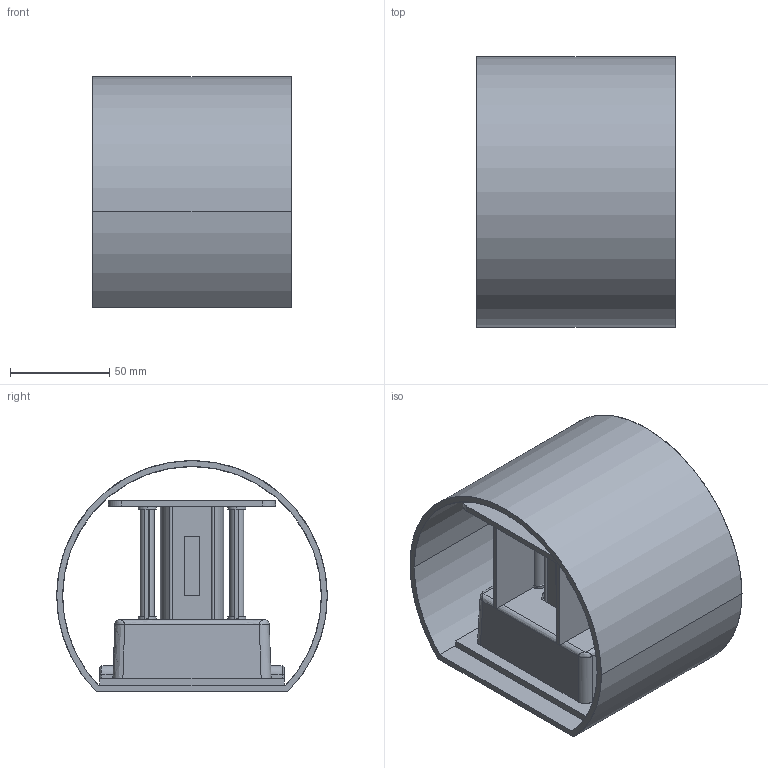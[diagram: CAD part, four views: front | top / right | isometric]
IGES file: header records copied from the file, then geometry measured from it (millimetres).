
Start section: SolidWorks IGES file using analytic representation for surfaces
Global section: file name: \\srvficheros\grupos\DISENYO\DESARROLLO DE PRODUCTO\_3D_WEB\KOWA-A2033070\KOWA-A2033070.IGS; native system: SolidWorks 2025; preprocessor: SolidWorks 2025; author: d.pons; date: 260114.093806; units: millimetre
Bounding box: 100 x 136 x 116 mm (x, y, z)
Surface area: 169080.1 mm2 (no closed solid volume)
Topology: 0 solids, 0 shells, 647 faces, 7624 edges, 7622 vertices
Faces by surface type: bspline 403, revolution 244
